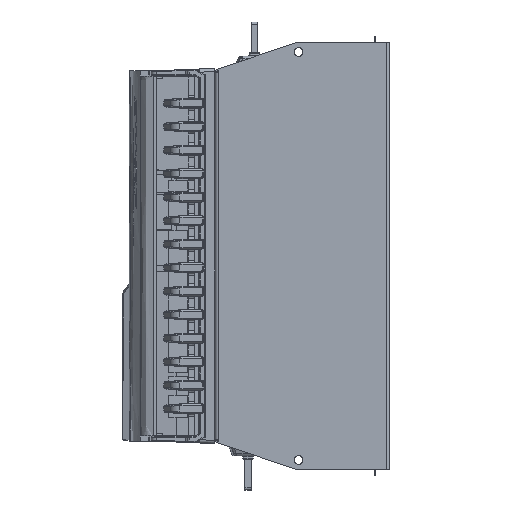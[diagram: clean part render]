
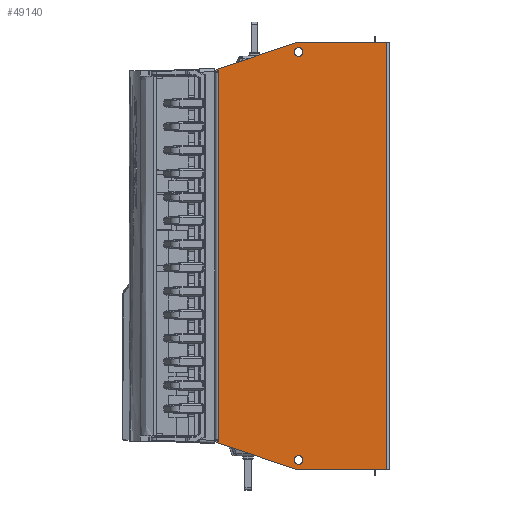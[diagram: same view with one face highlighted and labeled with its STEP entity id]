
A CAD part, left-side view. The second image highlights one B-rep face of the part: STEP entity #49140.
In plain terms, the highlighted planar face has unit normal (-1, 0, 0).
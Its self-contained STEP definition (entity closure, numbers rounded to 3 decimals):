
#6532 = VERTEX_POINT ( 'NONE', #147770 ) ;
#6614 = VERTEX_POINT ( 'NONE', #149012 ) ;
#6638 = VERTEX_POINT ( 'NONE', #147873 ) ;
#6752 = VERTEX_POINT ( 'NONE', #147267 ) ;
#6864 = VERTEX_POINT ( 'NONE', #149064 ) ;
#6872 = VERTEX_POINT ( 'NONE', #148829 ) ;
#6951 = VERTEX_POINT ( 'NONE', #148745 ) ;
#7123 = VERTEX_POINT ( 'NONE', #149465 ) ;
#7163 = VERTEX_POINT ( 'NONE', #149125 ) ;
#7223 = VERTEX_POINT ( 'NONE', #148232 ) ;
#7591 = VERTEX_POINT ( 'NONE', #148065 ) ;
#7912 = VERTEX_POINT ( 'NONE', #147506 ) ;
#7980 = VERTEX_POINT ( 'NONE', #146978 ) ;
#8347 = VERTEX_POINT ( 'NONE', #147753 ) ;
#8420 = VERTEX_POINT ( 'NONE', #148375 ) ;
#8633 = VERTEX_POINT ( 'NONE', #148178 ) ;
#47631 = AXIS2_PLACEMENT_3D ( 'NONE', #177416, #177419, #177422 ) ;
#48933 = AXIS2_PLACEMENT_3D ( 'NONE', #180028, #180031, #180033 ) ;
#49140 = ADVANCED_FACE ( 'NONE', ( #62161, #62095, #62148 ), #177400, .F. ) ;
#49280 = AXIS2_PLACEMENT_3D ( 'NONE', #132101, #132102, #132103 ) ;
#49860 = AXIS2_PLACEMENT_3D ( 'NONE', #78217, #78218, #78219 ) ;
#58389 = CIRCLE ( 'NONE', #143316, 4.15 ) ;
#58860 = VECTOR ( 'NONE', #144263, 1000. ) ;
#58867 = LINE ( 'NONE', #144258, #58860 ) ;
#59243 = CIRCLE ( 'NONE', #143493, 2. ) ;
#59310 = LINE ( 'NONE', #142057, #59315 ) ;
#59315 = VECTOR ( 'NONE', #142046, 1000. ) ;
#59353 = LINE ( 'NONE', #142155, #59361 ) ;
#59361 = VECTOR ( 'NONE', #142159, 1000. ) ;
#59495 = CIRCLE ( 'NONE', #143583, 4.15 ) ;
#60775 = CARTESIAN_POINT ( 'NONE',  ( -137.5, 11.719, -190.85 ) ) ;
#60776 = DIRECTION ( 'NONE',  ( -1., 0., 0. ) ) ;
#60777 = DIRECTION ( 'NONE',  ( 0., 0., -1. ) ) ;
#62095 = FACE_BOUND ( 'NONE', #165813, .T. ) ;
#62148 = FACE_OUTER_BOUND ( 'NONE', #165318, .T. ) ;
#62161 = FACE_BOUND ( 'NONE', #174986, .T. ) ;
#68440 = LINE ( 'NONE', #119088, #68447 ) ;
#68447 = VECTOR ( 'NONE', #119074, 1000. ) ;
#72488 = CIRCLE ( 'NONE', #48933, 2. ) ;
#78217 = CARTESIAN_POINT ( 'NONE',  ( -137.5, 11.719, 190.85 ) ) ;
#78218 = DIRECTION ( 'NONE',  ( -1., 0., 0. ) ) ;
#78219 = DIRECTION ( 'NONE',  ( 0., 0., 1. ) ) ;
#79389 = LINE ( 'NONE', #101609, #79392 ) ;
#79392 = VECTOR ( 'NONE', #101627, 1000. ) ;
#79544 = LINE ( 'NONE', #102919, #79547 ) ;
#79547 = VECTOR ( 'NONE', #102920, 1000. ) ;
#79662 = LINE ( 'NONE', #103102, #79664 ) ;
#79664 = VECTOR ( 'NONE', #103103, 1000. ) ;
#96104 = EDGE_CURVE ( 'NONE', #7980, #6951, #209546, .T. ) ;
#97653 = EDGE_CURVE ( 'NONE', #7912, #8347, #115021, .T. ) ;
#99585 = EDGE_CURVE ( 'NONE', #7591, #7123, #72488, .T. ) ;
#100644 = EDGE_CURVE ( 'NONE', #6872, #6614, #184561, .T. ) ;
#101609 = CARTESIAN_POINT ( 'NONE',  ( -137.5, -73.6, -200. ) ) ;
#101627 = DIRECTION ( 'NONE',  ( 0., -1., 0. ) ) ;
#102919 = CARTESIAN_POINT ( 'NONE',  ( -137.5, -70.6, -200. ) ) ;
#102920 = DIRECTION ( 'NONE',  ( 0., 0., 1. ) ) ;
#103102 = CARTESIAN_POINT ( 'NONE',  ( -137.5, 86.9, 171.84 ) ) ;
#103103 = DIRECTION ( 'NONE',  ( 0., 0., -1. ) ) ;
#103514 = LINE ( 'NONE', #110839, #103521 ) ;
#103521 = VECTOR ( 'NONE', #110824, 1000. ) ;
#103552 = LINE ( 'NONE', #110931, #103557 ) ;
#103557 = VECTOR ( 'NONE', #110949, 1000. ) ;
#110824 = DIRECTION ( 'NONE',  ( 0., -1., 0. ) ) ;
#110839 = CARTESIAN_POINT ( 'NONE',  ( -137.5, 89.9, 171.84 ) ) ;
#110931 = CARTESIAN_POINT ( 'NONE',  ( -137.5, -73.6, 200. ) ) ;
#110949 = DIRECTION ( 'NONE',  ( 0., 1., 0. ) ) ;
#115021 = CIRCLE ( 'NONE', #49860, 4.15 ) ;
#119074 = DIRECTION ( 'NONE',  ( 0., -0.947, -0.321 ) ) ;
#119088 = CARTESIAN_POINT ( 'NONE',  ( -137.5, 86.74, -175.046 ) ) ;
#132101 = CARTESIAN_POINT ( 'NONE',  ( -137.5, 11.719, -190.85 ) ) ;
#132102 = DIRECTION ( 'NONE',  ( -1., 0., 0. ) ) ;
#132103 = DIRECTION ( 'NONE',  ( 0., 0., -1. ) ) ;
#141889 = CARTESIAN_POINT ( 'NONE',  ( -137.5, 12.899, 198. ) ) ;
#141892 = DIRECTION ( 'NONE',  ( -1., 0., 0. ) ) ;
#141895 = DIRECTION ( 'NONE',  ( 0., 0., -1. ) ) ;
#142046 = DIRECTION ( 'NONE',  ( 0., 1., 0. ) ) ;
#142057 = CARTESIAN_POINT ( 'NONE',  ( -137.5, 89.9, -171.84 ) ) ;
#142155 = CARTESIAN_POINT ( 'NONE',  ( -137.5, 86.74, -173.046 ) ) ;
#142159 = DIRECTION ( 'NONE',  ( 0., 0., -1. ) ) ;
#142695 = CARTESIAN_POINT ( 'NONE',  ( -137.5, 11.719, 190.85 ) ) ;
#142698 = DIRECTION ( 'NONE',  ( -1., 0., 0. ) ) ;
#142701 = DIRECTION ( 'NONE',  ( 0., 0., 1. ) ) ;
#143316 = AXIS2_PLACEMENT_3D ( 'NONE', #60775, #60776, #60777 ) ;
#143493 = AXIS2_PLACEMENT_3D ( 'NONE', #141889, #141892, #141895 ) ;
#143583 = AXIS2_PLACEMENT_3D ( 'NONE', #142695, #142698, #142701 ) ;
#144258 = CARTESIAN_POINT ( 'NONE',  ( -137.5, 86.74, 175.046 ) ) ;
#144263 = DIRECTION ( 'NONE',  ( 0., 0.947, -0.321 ) ) ;
#146978 = CARTESIAN_POINT ( 'NONE',  ( -137.5, 86.74, 175.046 ) ) ;
#147267 = CARTESIAN_POINT ( 'NONE',  ( -137.5, 13.542, 199.894 ) ) ;
#147506 = CARTESIAN_POINT ( 'NONE',  ( -137.5, 11.719, 195. ) ) ;
#147753 = CARTESIAN_POINT ( 'NONE',  ( -137.5, 11.719, 186.7 ) ) ;
#147770 = CARTESIAN_POINT ( 'NONE',  ( -137.5, -70.6, -200. ) ) ;
#147873 = CARTESIAN_POINT ( 'NONE',  ( -137.5, 86.74, -171.84 ) ) ;
#148065 = CARTESIAN_POINT ( 'NONE',  ( -137.5, 13.542, -199.894 ) ) ;
#148178 = CARTESIAN_POINT ( 'NONE',  ( -137.5, 86.74, -175.046 ) ) ;
#148232 = CARTESIAN_POINT ( 'NONE',  ( -137.5, -70.6, 200. ) ) ;
#148375 = CARTESIAN_POINT ( 'NONE',  ( -137.5, 86.9, -171.84 ) ) ;
#148745 = CARTESIAN_POINT ( 'NONE',  ( -137.5, 86.74, 171.84 ) ) ;
#148829 = CARTESIAN_POINT ( 'NONE',  ( -137.5, 11.719, -195. ) ) ;
#149012 = CARTESIAN_POINT ( 'NONE',  ( -137.5, 11.719, -186.7 ) ) ;
#149064 = CARTESIAN_POINT ( 'NONE',  ( -137.5, 12.899, 200. ) ) ;
#149125 = CARTESIAN_POINT ( 'NONE',  ( -137.5, 86.9, 171.84 ) ) ;
#149465 = CARTESIAN_POINT ( 'NONE',  ( -137.5, 12.899, -200. ) ) ;
#152117 = EDGE_CURVE ( 'NONE', #7163, #6951, #103514, .T. ) ;
#152198 = EDGE_CURVE ( 'NONE', #7223, #6864, #103552, .T. ) ;
#152573 = EDGE_CURVE ( 'NONE', #6614, #6872, #58389, .T. ) ;
#152827 = EDGE_CURVE ( 'NONE', #6752, #7980, #58867, .T. ) ;
#153022 = EDGE_CURVE ( 'NONE', #6864, #6752, #59243, .T. ) ;
#153056 = EDGE_CURVE ( 'NONE', #6638, #8420, #59310, .T. ) ;
#153077 = EDGE_CURVE ( 'NONE', #6638, #8633, #59353, .T. ) ;
#153203 = EDGE_CURVE ( 'NONE', #8347, #7912, #59495, .T. ) ;
#153589 = EDGE_CURVE ( 'NONE', #7123, #6532, #79389, .T. ) ;
#153789 = EDGE_CURVE ( 'NONE', #6532, #7223, #79544, .T. ) ;
#153946 = EDGE_CURVE ( 'NONE', #7163, #8420, #79662, .T. ) ;
#154013 = EDGE_CURVE ( 'NONE', #8633, #7591, #68440, .T. ) ;
#158816 = ORIENTED_EDGE ( 'NONE', *, *, #153789, .T. ) ;
#158850 = ORIENTED_EDGE ( 'NONE', *, *, #152198, .T. ) ;
#159247 = ORIENTED_EDGE ( 'NONE', *, *, #97653, .F. ) ;
#159328 = ORIENTED_EDGE ( 'NONE', *, *, #153946, .T. ) ;
#159331 = ORIENTED_EDGE ( 'NONE', *, *, #100644, .F. ) ;
#159385 = ORIENTED_EDGE ( 'NONE', *, *, #153589, .T. ) ;
#159448 = ORIENTED_EDGE ( 'NONE', *, *, #153056, .F. ) ;
#161479 = CARTESIAN_POINT ( 'NONE',  ( -137.5, 86.74, 173.046 ) ) ;
#161497 = DIRECTION ( 'NONE',  ( 0., 0., -1. ) ) ;
#165318 = EDGE_LOOP ( 'NONE', ( #158816, #158850, #176218, #177127, #176140, #176126, #159328, #159448, #177101, #177044, #177104, #159385 ) ) ;
#165813 = EDGE_LOOP ( 'NONE', ( #159247, #176278 ) ) ;
#174986 = EDGE_LOOP ( 'NONE', ( #176348, #159331 ) ) ;
#176126 = ORIENTED_EDGE ( 'NONE', *, *, #152117, .F. ) ;
#176140 = ORIENTED_EDGE ( 'NONE', *, *, #96104, .T. ) ;
#176218 = ORIENTED_EDGE ( 'NONE', *, *, #153022, .T. ) ;
#176278 = ORIENTED_EDGE ( 'NONE', *, *, #153203, .F. ) ;
#176348 = ORIENTED_EDGE ( 'NONE', *, *, #152573, .F. ) ;
#177044 = ORIENTED_EDGE ( 'NONE', *, *, #154013, .T. ) ;
#177101 = ORIENTED_EDGE ( 'NONE', *, *, #153077, .T. ) ;
#177104 = ORIENTED_EDGE ( 'NONE', *, *, #99585, .T. ) ;
#177127 = ORIENTED_EDGE ( 'NONE', *, *, #152827, .T. ) ;
#177400 = PLANE ( 'NONE',  #47631 ) ;
#177416 = CARTESIAN_POINT ( 'NONE',  ( -137.5, 89.9, -175. ) ) ;
#177419 = DIRECTION ( 'NONE',  ( 1., 0., 0. ) ) ;
#177422 = DIRECTION ( 'NONE',  ( 0., 0., -1. ) ) ;
#180028 = CARTESIAN_POINT ( 'NONE',  ( -137.5, 12.899, -198. ) ) ;
#180031 = DIRECTION ( 'NONE',  ( -1., 0., 0. ) ) ;
#180033 = DIRECTION ( 'NONE',  ( 0., 0., -1. ) ) ;
#184561 = CIRCLE ( 'NONE', #49280, 4.15 ) ;
#209503 = VECTOR ( 'NONE', #161497, 1000. ) ;
#209546 = LINE ( 'NONE', #161479, #209503 ) ;
